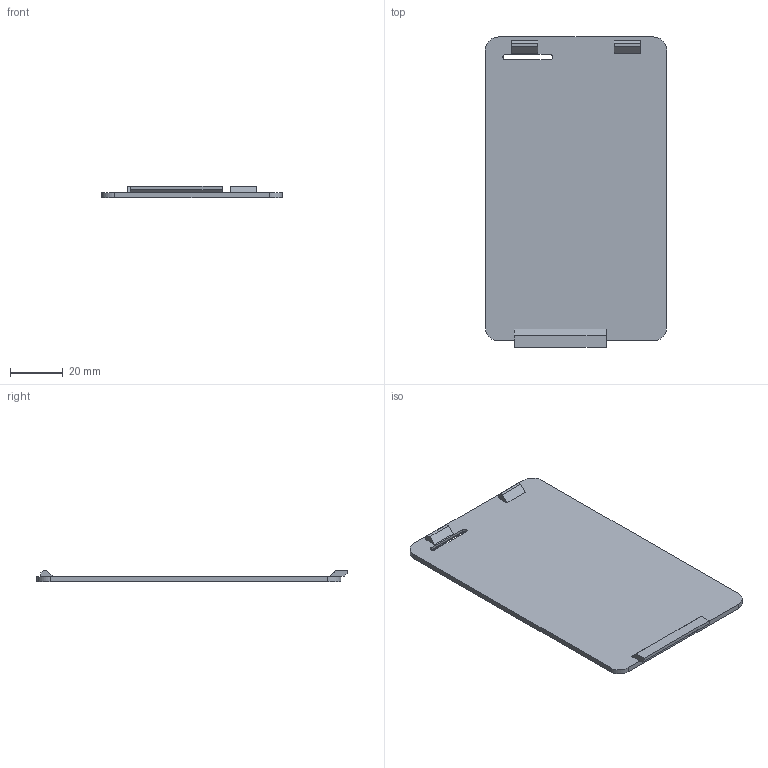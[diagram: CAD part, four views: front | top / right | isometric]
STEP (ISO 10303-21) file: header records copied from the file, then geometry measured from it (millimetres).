
FILE_DESCRIPTION(/* description */ ('STEP AP242','CAx-IF Rec.Pracs.---Representation and Presentation of Product Manufacturing Information (PMI)---4.0---2014-10-13','CAx-IF Rec.Pracs.---3D Tessellated Geometry---0.4---2014-09-14','2;1'),/* implementation_level */ '2;1');
FILE_NAME(/* name */ '687e6c4df344454910d4833b',/* time_stamp */ '2025-07-21T16:35:26Z',/* author */ (''),/* organization */ (''),/* preprocessor_version */ 'ST-DEVELOPER v20',/* originating_system */ 'ONSHAPE BY PTC INC, 1.201',/* authorisation */ ' ');
FILE_SCHEMA (('AP242_MANAGED_MODEL_BASED_3D_ENGINEERING_MIM_LF { 1 0 10303 442 1 1 4 }'));
Length unit declared in the file: metre
Products named in the file (1): Right Cover Panel
Bounding box: 69 x 118.1 x 4.5 mm (x, y, z)
Volume: 16437.2 mm3; surface area: 17056.3 mm2
Topology: 1 solids, 1 shells, 39 faces, 100 edges, 67 vertices
Faces by surface type: plane 31, cylinder 8
Entity records: 1204 total; most frequent: CARTESIAN_POINT 207, ORIENTED_EDGE 200, DIRECTION 196, EDGE_CURVE 100, LINE 84, VECTOR 84, VERTEX_POINT 67, AXIS2_PLACEMENT_3D 56
